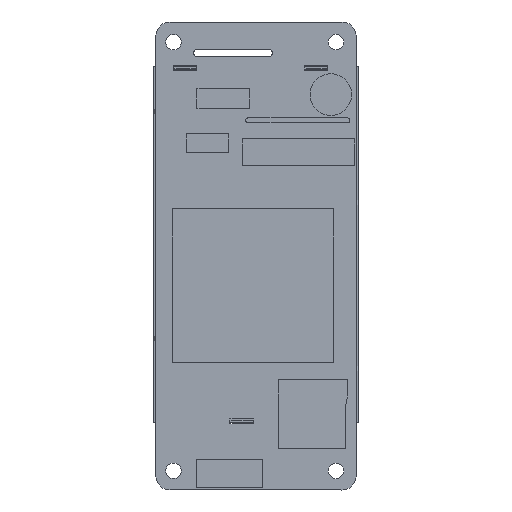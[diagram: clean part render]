
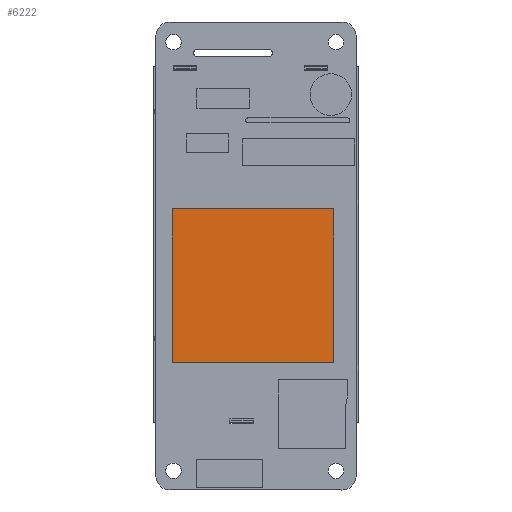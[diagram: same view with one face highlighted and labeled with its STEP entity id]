
A CAD part, front view. The second image highlights one B-rep face of the part: STEP entity #6222.
In plain terms, the highlighted planar face has unit normal (0, -1, 0).
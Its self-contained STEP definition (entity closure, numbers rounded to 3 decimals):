
#1858=DIRECTION('',(0.,0.,-1.));
#1859=VECTOR('',#1858,32.766);
#1860=CARTESIAN_POINT('',(-17.849,-10.1,7.705));
#1861=LINE('',#1860,#1859);
#1866=DIRECTION('',(-1.,0.,0.));
#1867=VECTOR('',#1866,34.417);
#1868=CARTESIAN_POINT('',(16.568,-10.1,7.705));
#1869=LINE('',#1868,#1867);
#1874=DIRECTION('',(0.,0.,1.));
#1875=VECTOR('',#1874,32.766);
#1876=CARTESIAN_POINT('',(16.568,-10.1,-25.061));
#1877=LINE('',#1876,#1875);
#1882=DIRECTION('',(1.,0.,0.));
#1883=VECTOR('',#1882,34.417);
#1884=CARTESIAN_POINT('',(-17.849,-10.1,-25.061));
#1885=LINE('',#1884,#1883);
#2452=CARTESIAN_POINT('',(-17.849,-10.1,7.705));
#2453=VERTEX_POINT('',#2452);
#2454=CARTESIAN_POINT('',(-17.849,-10.1,-25.061));
#2455=VERTEX_POINT('',#2454);
#2456=CARTESIAN_POINT('',(16.568,-10.1,7.705));
#2457=VERTEX_POINT('',#2456);
#2458=CARTESIAN_POINT('',(16.568,-10.1,-25.061));
#2459=VERTEX_POINT('',#2458);
#6211=CARTESIAN_POINT('',(-21.4,-10.1,44.601));
#6212=DIRECTION('',(0.,-1.,0.));
#6213=DIRECTION('',(0.,0.,-1.));
#6214=AXIS2_PLACEMENT_3D('',#6211,#6212,#6213);
#6215=PLANE('',#6214);
#6216=ORIENTED_EDGE('',*,*,#6135,.F.);
#6217=ORIENTED_EDGE('',*,*,#6157,.F.);
#6218=ORIENTED_EDGE('',*,*,#6178,.F.);
#6219=ORIENTED_EDGE('',*,*,#6198,.F.);
#6220=EDGE_LOOP('',(#6216,#6217,#6218,#6219));
#6221=FACE_OUTER_BOUND('',#6220,.F.);
#6135=EDGE_CURVE('',#2453,#2455,#1861,.T.);
#6157=EDGE_CURVE('',#2457,#2453,#1869,.T.);
#6178=EDGE_CURVE('',#2459,#2457,#1877,.T.);
#6198=EDGE_CURVE('',#2455,#2459,#1885,.T.);
#6222=ADVANCED_FACE('',(#6221),#6215,.T.);
